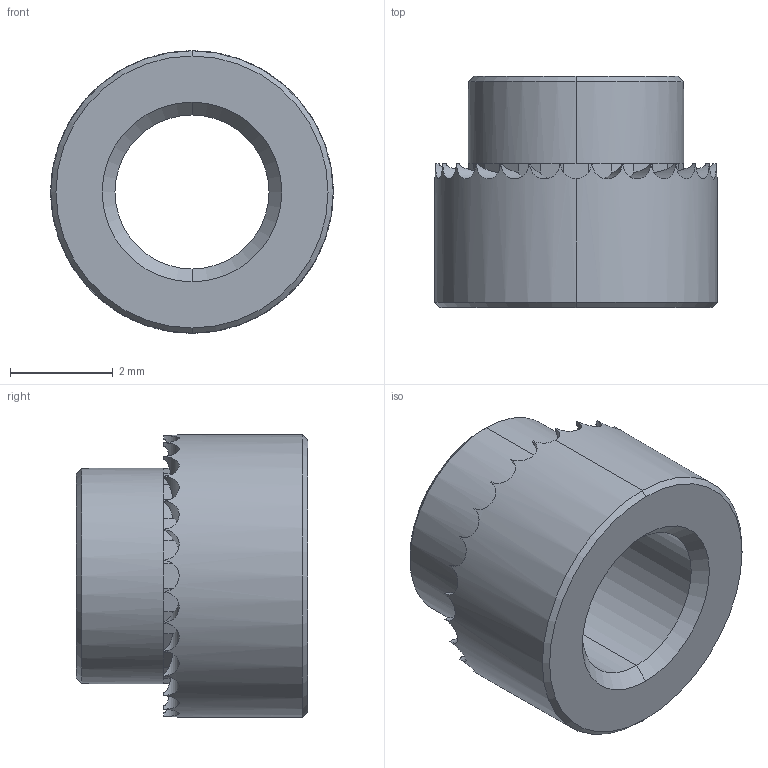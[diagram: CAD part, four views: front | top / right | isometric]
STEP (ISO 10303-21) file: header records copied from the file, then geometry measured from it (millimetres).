
FILE_DESCRIPTION (( 'STEP AP203' ), '1' );
FILE_NAME ('P0829.030-18G-ZP.step', '2019-03-21T22:13:07', ( '' ), ( '' ), 'SwSTEP 2.0', 'SolidWorks 2017', '' );
FILE_SCHEMA (( 'CONFIG_CONTROL_DESIGN' ));
Length unit declared in the file: millimetre
Products named in the file (1): P0829.030-18G-ZP
Bounding box: 5.5 x 4.5 x 5.5 mm (x, y, z)
Volume: 54.9 mm3; surface area: 144.7 mm2
Topology: 1 solids, 1 shells, 128 faces, 312 edges, 186 vertices
Faces by surface type: plane 86, cylinder 34, cone 8
Entity records: 3963 total; most frequent: CARTESIAN_POINT 965, ORIENTED_EDGE 624, DIRECTION 612, EDGE_CURVE 312, AXIS2_PLACEMENT_3D 229, VERTEX_POINT 186, LINE 154, VECTOR 154
